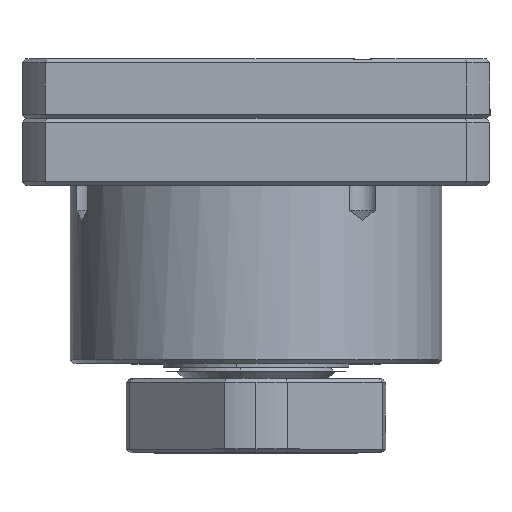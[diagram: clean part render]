
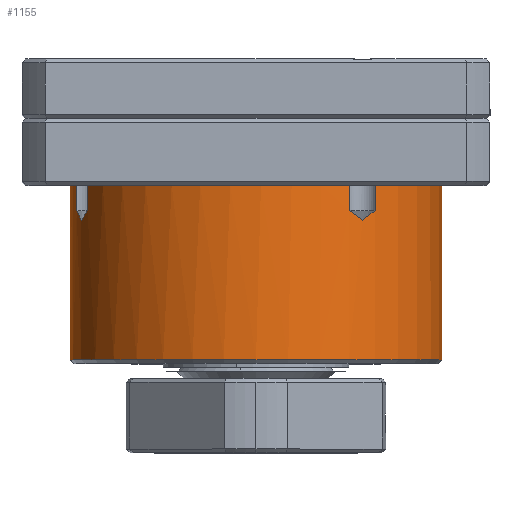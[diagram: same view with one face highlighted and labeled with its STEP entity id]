
A CAD part, top view. The second image highlights one B-rep face of the part: STEP entity #1155.
In plain terms, the highlighted cylindrical face has radius 25 mm (diameter 50 mm), a partial arc.
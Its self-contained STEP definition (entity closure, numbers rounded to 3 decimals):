
#62 = CARTESIAN_POINT ( 'NONE',  ( -24.14, 20.6, 6.5 ) ) ;
#79 = CARTESIAN_POINT ( 'NONE',  ( 14.339, 19.308, 20.479 ) ) ;
#228 = ORIENTED_EDGE ( 'NONE', *, *, #7627, .T. ) ;
#236 = ORIENTED_EDGE ( 'NONE', *, *, #2974, .F. ) ;
#322 = LINE ( 'NONE', #5788, #3282 ) ;
#406 = VERTEX_POINT ( 'NONE', #4815 ) ;
#434 = CARTESIAN_POINT ( 'NONE',  ( -23.954, 20.17, 7.192 ) ) ;
#436 = CARTESIAN_POINT ( 'NONE',  ( -25., 0., 0. ) ) ;
#475 = VERTEX_POINT ( 'NONE', #4200 ) ;
#491 = CARTESIAN_POINT ( 'NONE',  ( 0., 0., 0. ) ) ;
#520 = LINE ( 'NONE', #5774, #6815 ) ;
#528 = CARTESIAN_POINT ( 'NONE',  ( -23.492, 19.308, 8.551 ) ) ;
#580 = ORIENTED_EDGE ( 'NONE', *, *, #2584, .F. ) ;
#609 = ORIENTED_EDGE ( 'NONE', *, *, #1526, .F. ) ;
#788 = CARTESIAN_POINT ( 'NONE',  ( -22.671, 24., 10.537 ) ) ;
#828 = DIRECTION ( 'NONE',  ( 1., 0., 0. ) ) ;
#872 = ORIENTED_EDGE ( 'NONE', *, *, #7343, .F. ) ;
#971 = ORIENTED_EDGE ( 'NONE', *, *, #4914, .F. ) ;
#1013 = EDGE_CURVE ( 'NONE', #406, #6831, #6481, .T. ) ;
#1039 = DIRECTION ( 'NONE',  ( 0., -1., 0. ) ) ;
#1143 = VECTOR ( 'NONE', #5986, 1000. ) ;
#1155 = ADVANCED_FACE ( 'NONE', ( #2580 ), #7116, .T. ) ;
#1234 = VERTEX_POINT ( 'NONE', #788 ) ;
#1248 = LINE ( 'NONE', #6488, #5945 ) ;
#1287 = CARTESIAN_POINT ( 'NONE',  ( 16.046, 20.6, 19.171 ) ) ;
#1310 = CARTESIAN_POINT ( 'NONE',  ( 16.046, 20.6, 19.171 ) ) ;
#1483 = EDGE_CURVE ( 'NONE', #1543, #6141, #2300, .T. ) ;
#1526 = EDGE_CURVE ( 'NONE', #4410, #2705, #520, .T. ) ;
#1543 = VERTEX_POINT ( 'NONE', #5517 ) ;
#1580 = CARTESIAN_POINT ( 'NONE',  ( -23.247, 19.739, 9.224 ) ) ;
#1600 = VECTOR ( 'NONE', #6351, 1000. ) ;
#1639 = ORIENTED_EDGE ( 'NONE', *, *, #1483, .T. ) ;
#1640 = CARTESIAN_POINT ( 'NONE',  ( -25., 24., 0. ) ) ;
#1750 = CIRCLE ( 'NONE', #5583, 25. ) ;
#1751 = AXIS2_PLACEMENT_3D ( 'NONE', #2545, #6661, #3130 ) ;
#1800 = ORIENTED_EDGE ( 'NONE', *, *, #6256, .F. ) ;
#1840 = CIRCLE ( 'NONE', #1751, 25. ) ;
#1886 = CARTESIAN_POINT ( 'NONE',  ( 16.046, 26.8, 19.171 ) ) ;
#1970 = B_SPLINE_CURVE_WITH_KNOTS ( 'NONE', 3,
 ( #5726, #2215, #7569, #3962 ),
 .UNSPECIFIED., .F., .F.,
 ( 4, 4 ),
 ( 0.002, 0.004 ),
 .UNSPECIFIED. ) ;
#2115 = CIRCLE ( 'NONE', #2132, 25. ) ;
#2132 = AXIS2_PLACEMENT_3D ( 'NONE', #6431, #4593, #4121 ) ;
#2146 = EDGE_CURVE ( 'NONE', #3713, #475, #2115, .T. ) ;
#2215 = CARTESIAN_POINT ( 'NONE',  ( 13.147, 20.17, 21.276 ) ) ;
#2300 = CIRCLE ( 'NONE', #4697, 25. ) ;
#2319 = DIRECTION ( 'NONE',  ( 0., 1., 0. ) ) ;
#2545 = CARTESIAN_POINT ( 'NONE',  ( 0., 24., 0. ) ) ;
#2580 = FACE_OUTER_BOUND ( 'NONE', #5998, .T. ) ;
#2584 = EDGE_CURVE ( 'NONE', #1543, #406, #1248, .T. ) ;
#2656 = CARTESIAN_POINT ( 'NONE',  ( -25., 0.5, 0. ) ) ;
#2705 = VERTEX_POINT ( 'NONE', #5407 ) ;
#2773 = CARTESIAN_POINT ( 'NONE',  ( -22.973, 20.17, 9.888 ) ) ;
#2819 = ORIENTED_EDGE ( 'NONE', *, *, #5416, .F. ) ;
#2970 = DIRECTION ( 'NONE',  ( 0., -1., 0. ) ) ;
#2974 = EDGE_CURVE ( 'NONE', #6831, #4296, #5615, .T. ) ;
#3130 = DIRECTION ( 'NONE',  ( 1., 0., 0. ) ) ;
#3173 = ORIENTED_EDGE ( 'NONE', *, *, #6402, .F. ) ;
#3282 = VECTOR ( 'NONE', #6996, 1000. ) ;
#3626 = CARTESIAN_POINT ( 'NONE',  ( 14.927, 19.739, 20.067 ) ) ;
#3713 = VERTEX_POINT ( 'NONE', #2656 ) ;
#3741 = ORIENTED_EDGE ( 'NONE', *, *, #1013, .F. ) ;
#3863 = VERTEX_POINT ( 'NONE', #6356 ) ;
#3962 = CARTESIAN_POINT ( 'NONE',  ( 14.339, 19.308, 20.479 ) ) ;
#4121 = DIRECTION ( 'NONE',  ( 1., 0., 0. ) ) ;
#4167 = LINE ( 'NONE', #7042, #5579 ) ;
#4200 = CARTESIAN_POINT ( 'NONE',  ( 25., 0.5, 0. ) ) ;
#4296 = VERTEX_POINT ( 'NONE', #6834 ) ;
#4342 = LINE ( 'NONE', #436, #1600 ) ;
#4410 = VERTEX_POINT ( 'NONE', #6759 ) ;
#4465 = EDGE_CURVE ( 'NONE', #4410, #1234, #1750, .T. ) ;
#4530 = CARTESIAN_POINT ( 'NONE',  ( 0., 24., 0. ) ) ;
#4544 = ORIENTED_EDGE ( 'NONE', *, *, #4709, .T. ) ;
#4593 = DIRECTION ( 'NONE',  ( 0., 1., 0. ) ) ;
#4697 = AXIS2_PLACEMENT_3D ( 'NONE', #6099, #6072, #6041 ) ;
#4709 = EDGE_CURVE ( 'NONE', #7659, #6110, #1840, .T. ) ;
#4736 = ORIENTED_EDGE ( 'NONE', *, *, #2146, .T. ) ;
#4791 = CARTESIAN_POINT ( 'NONE',  ( 15.496, 20.17, 19.631 ) ) ;
#4815 = CARTESIAN_POINT ( 'NONE',  ( -24.14, 20.6, 6.5 ) ) ;
#4836 = AXIS2_PLACEMENT_3D ( 'NONE', #491, #6671, #828 ) ;
#4914 = EDGE_CURVE ( 'NONE', #2705, #3863, #1970, .T. ) ;
#5136 = DIRECTION ( 'NONE',  ( 1., 0., 0. ) ) ;
#5290 = ORIENTED_EDGE ( 'NONE', *, *, #4465, .T. ) ;
#5340 = B_SPLINE_CURVE_WITH_KNOTS ( 'NONE', 3,
 ( #79, #3626, #4791, #1287 ),
 .UNSPECIFIED., .F., .F.,
 ( 4, 4 ),
 ( 0., 0.003 ),
 .UNSPECIFIED. ) ;
#5407 = CARTESIAN_POINT ( 'NONE',  ( 12.527, 20.6, 21.635 ) ) ;
#5416 = EDGE_CURVE ( 'NONE', #7659, #475, #322, .T. ) ;
#5517 = CARTESIAN_POINT ( 'NONE',  ( -24.14, 24., 6.5 ) ) ;
#5579 = VECTOR ( 'NONE', #2319, 1000. ) ;
#5583 = AXIS2_PLACEMENT_3D ( 'NONE', #4530, #1039, #5136 ) ;
#5615 = B_SPLINE_CURVE_WITH_KNOTS ( 'NONE', 3,
 ( #5701, #1580, #2773, #6899 ),
 .UNSPECIFIED., .F., .F.,
 ( 4, 4 ),
 ( 0., 0.003 ),
 .UNSPECIFIED. ) ;
#5701 = CARTESIAN_POINT ( 'NONE',  ( -23.492, 19.308, 8.551 ) ) ;
#5705 = CARTESIAN_POINT ( 'NONE',  ( 16.046, 24., 19.171 ) ) ;
#5726 = CARTESIAN_POINT ( 'NONE',  ( 12.527, 20.6, 21.635 ) ) ;
#5774 = CARTESIAN_POINT ( 'NONE',  ( 12.527, 26.8, 21.635 ) ) ;
#5788 = CARTESIAN_POINT ( 'NONE',  ( 25., 0., 0. ) ) ;
#5899 = DIRECTION ( 'NONE',  ( 0., -1., 0. ) ) ;
#5945 = VECTOR ( 'NONE', #2970, 1000. ) ;
#5986 = DIRECTION ( 'NONE',  ( 0., 1., 0. ) ) ;
#5998 = EDGE_LOOP ( 'NONE', ( #1639, #228, #4736, #2819, #4544, #872, #3173, #971, #609, #5290, #1800, #236, #3741, #580 ) ) ;
#6041 = DIRECTION ( 'NONE',  ( 1., 0., 0. ) ) ;
#6072 = DIRECTION ( 'NONE',  ( 0., -1., 0. ) ) ;
#6099 = CARTESIAN_POINT ( 'NONE',  ( 0., 24., 0. ) ) ;
#6110 = VERTEX_POINT ( 'NONE', #5705 ) ;
#6141 = VERTEX_POINT ( 'NONE', #1640 ) ;
#6256 = EDGE_CURVE ( 'NONE', #4296, #1234, #4167, .T. ) ;
#6351 = DIRECTION ( 'NONE',  ( 0., -1., 0. ) ) ;
#6356 = CARTESIAN_POINT ( 'NONE',  ( 14.339, 19.308, 20.479 ) ) ;
#6402 = EDGE_CURVE ( 'NONE', #3863, #6440, #5340, .T. ) ;
#6431 = CARTESIAN_POINT ( 'NONE',  ( 0., 0.5, 0. ) ) ;
#6440 = VERTEX_POINT ( 'NONE', #1310 ) ;
#6481 = B_SPLINE_CURVE_WITH_KNOTS ( 'NONE', 3,
 ( #62, #434, #7744, #7158 ),
 .UNSPECIFIED., .F., .F.,
 ( 4, 4 ),
 ( 0.002, 0.004 ),
 .UNSPECIFIED. ) ;
#6488 = CARTESIAN_POINT ( 'NONE',  ( -24.14, 26.8, 6.5 ) ) ;
#6661 = DIRECTION ( 'NONE',  ( 0., -1., 0. ) ) ;
#6671 = DIRECTION ( 'NONE',  ( 0., -1., 0. ) ) ;
#6759 = CARTESIAN_POINT ( 'NONE',  ( 12.527, 24., 21.635 ) ) ;
#6815 = VECTOR ( 'NONE', #5899, 1000. ) ;
#6831 = VERTEX_POINT ( 'NONE', #528 ) ;
#6834 = CARTESIAN_POINT ( 'NONE',  ( -22.671, 20.6, 10.537 ) ) ;
#6899 = CARTESIAN_POINT ( 'NONE',  ( -22.671, 20.6, 10.537 ) ) ;
#6996 = DIRECTION ( 'NONE',  ( 0., -1., 0. ) ) ;
#7022 = CARTESIAN_POINT ( 'NONE',  ( 25., 24., 0. ) ) ;
#7042 = CARTESIAN_POINT ( 'NONE',  ( -22.671, 26.8, 10.537 ) ) ;
#7116 = CYLINDRICAL_SURFACE ( 'NONE', #4836, 25. ) ;
#7158 = CARTESIAN_POINT ( 'NONE',  ( -23.492, 19.308, 8.551 ) ) ;
#7343 = EDGE_CURVE ( 'NONE', #6440, #6110, #7460, .T. ) ;
#7460 = LINE ( 'NONE', #1886, #1143 ) ;
#7569 = CARTESIAN_POINT ( 'NONE',  ( 13.753, 19.739, 20.89 ) ) ;
#7627 = EDGE_CURVE ( 'NONE', #6141, #3713, #4342, .T. ) ;
#7659 = VERTEX_POINT ( 'NONE', #7022 ) ;
#7744 = CARTESIAN_POINT ( 'NONE',  ( -23.737, 19.739, 7.877 ) ) ;
